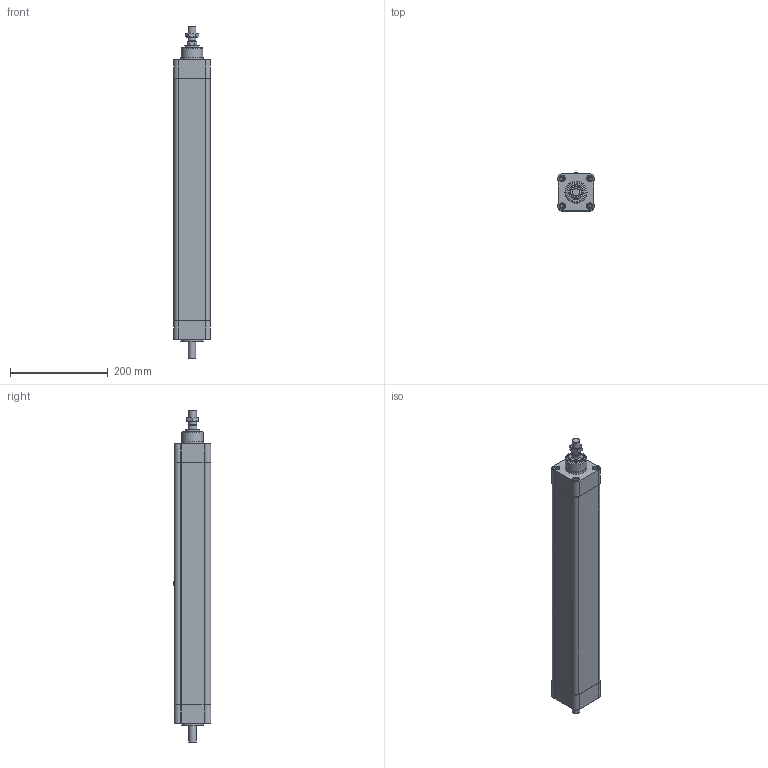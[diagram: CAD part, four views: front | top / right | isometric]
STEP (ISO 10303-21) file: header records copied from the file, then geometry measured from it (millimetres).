
FILE_DESCRIPTION(/* description */ ('STEP AP203'),/* implementation_level */ '2;1');
FILE_NAME(/* name */ 'PNCE 63 BS 2510 400 S(0)',/* time_stamp */ '2025-01-24T08:20:46+01:00',/* author */ ('License CC BY-ND 4.0'),/* organization */ ('CADENAS'),/* preprocessor_version */ 'ST-DEVELOPER v19.3',/* originating_system */ 'PARTsolutions',/* authorisation */ ' ');
FILE_SCHEMA (('CONFIG_CONTROL_DESIGN'));
Length unit declared in the file: millimetre
Products named in the file (6): PNCE 63 BS 2510 400 S(0); PNCE 63_drive cap; PNCE 63 400 S(0)_cylinder profil; PNCE 63_front cap; PNCE 63 400 S 0_piston rod; PNCE 63_nut
Assembly tree (5 placements, depth 2):
  PNCE 63 BS 2510 400 S(0)
    PNCE 63_drive cap
    PNCE 63 400 S(0)_cylinder profil
    PNCE 63_front cap
    PNCE 63 400 S 0_piston rod
    PNCE 63_nut
Bounding box: 74.97 x 77.5 x 678 mm (x, y, z)
Volume: 2292964.3 mm3; surface area: 424239.7 mm2
Topology: 5 solids, 5 shells, 256 faces, 576 edges, 380 vertices
Faces by surface type: plane 136, cylinder 90, cone 30
Full cylindrical faces by diameter (mm): 5.3 x1, 6.647 x8, 6.7 x4, 8 x8, 8.566 x1, 8.7 x4, 12 x8, 13 x8, 14.2 x1, 14.376 x1, 15 x1, 16 x1, 29.8 x1, 30 x2, 34 x1, 37 x1, 44 x1, 45 x2, 57 x2, 58 x2
Entity records: 8222 total; most frequent: DIRECTION 1168, CARTESIAN_POINT 1165, ORIENTED_EDGE 920, AXIS2_PLACEMENT_3D 462, EDGE_CURVE 460, FACE_BOUND 415, EDGE_LOOP 406, VERTEX_POINT 359
